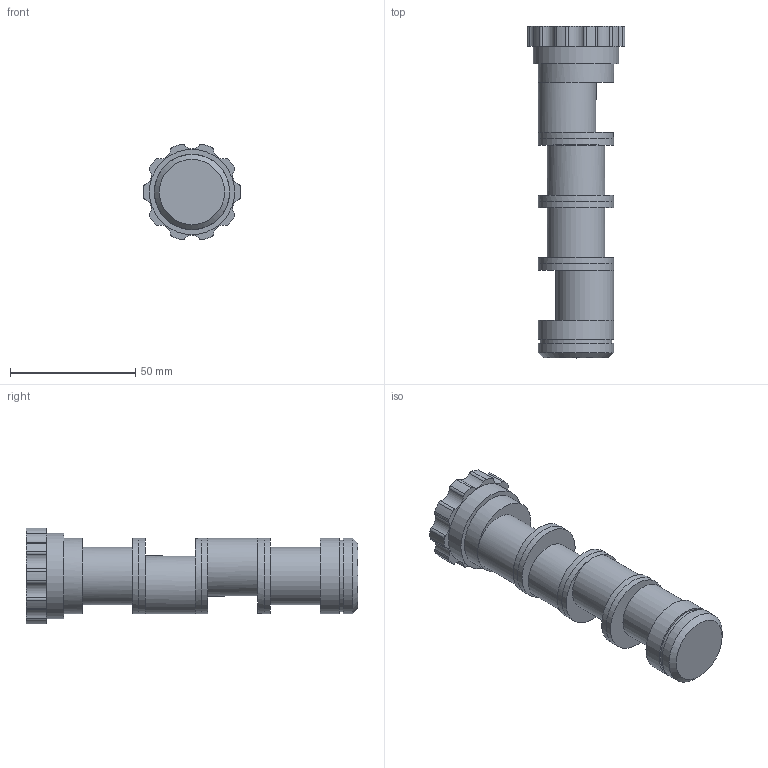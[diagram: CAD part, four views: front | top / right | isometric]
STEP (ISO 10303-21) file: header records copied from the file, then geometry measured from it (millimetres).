
FILE_DESCRIPTION(/* description */ ('STEP AP242','CAx-IF Rec.Pracs.---Representation and Presentation of Product Manufacturing Information (PMI)---4.0---2014-10-13','CAx-IF Rec.Pracs.---3D Tessellated Geometry---0.4---2014-09-14','2;1'),/* implementation_level */ '2;1');
FILE_NAME(/* name */ '64c802b576273f070d60f4d1',/* time_stamp */ '2023-07-31T18:51:34Z',/* author */ (''),/* organization */ (''),/* preprocessor_version */ 'ST-DEVELOPER v19.4',/* originating_system */ ' ',/* authorisation */ ' ');
FILE_SCHEMA (('AP242_MANAGED_MODEL_BASED_3D_ENGINEERING_MIM_LF { 1 0 10303 442 1 1 4 }'));
Length unit declared in the file: metre
Products named in the file (4): Part 2; Part 3; Part 4; Part 5
Bounding box: 38.98 x 132.5 x 38.13 mm (x, y, z)
Volume: 74534.4 mm3; surface area: 19874 mm2
Topology: 4 solids, 4 shells, 76 faces, 175 edges, 111 vertices
Faces by surface type: cylinder 55, plane 20, cone 1
Full cylindrical faces by diameter (mm): 23 x4, 28.6 x1, 30 x9, 34 x1
Entity records: 2139 total; most frequent: DIRECTION 422, CARTESIAN_POINT 334, ORIENTED_EDGE 302, AXIS2_PLACEMENT_3D 191, EDGE_CURVE 151, CIRCLE 111, VERTEX_POINT 103, EDGE_LOOP 96
